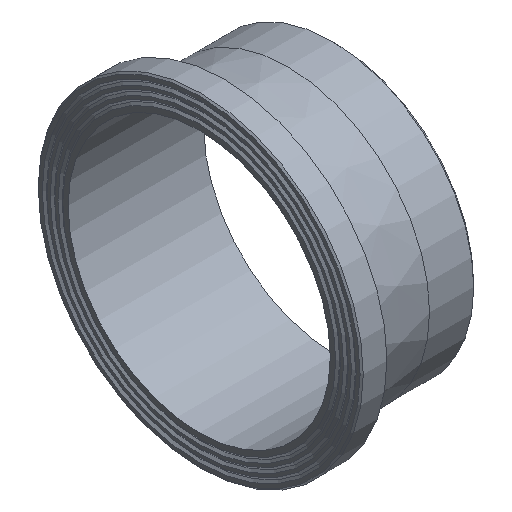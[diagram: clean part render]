
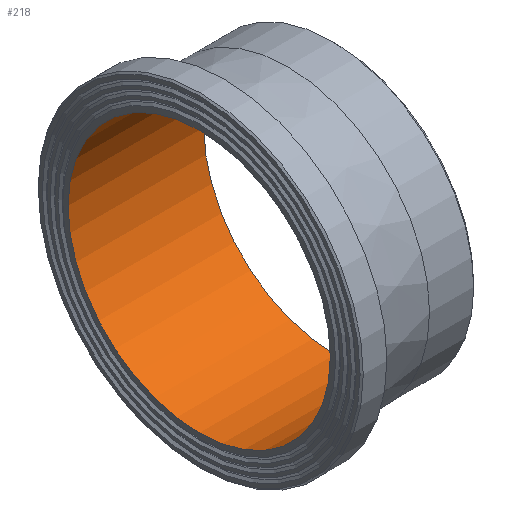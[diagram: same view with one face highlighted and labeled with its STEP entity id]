
A CAD part, isometric view. The second image highlights one B-rep face of the part: STEP entity #218.
In plain terms, the highlighted cylindrical face has radius 83.1 mm (diameter 166.2 mm), a full revolution.
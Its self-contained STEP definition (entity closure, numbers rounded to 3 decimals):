
#32=CYLINDRICAL_SURFACE('',#262,83.1);
#49=ORIENTED_EDGE('',*,*,#76,.F.);
#50=ORIENTED_EDGE('',*,*,#73,.T.);
#73=EDGE_CURVE('',#92,#92,#111,.T.);
#76=EDGE_CURVE('',#95,#95,#114,.T.);
#92=VERTEX_POINT('',#366);
#95=VERTEX_POINT('',#373);
#111=CIRCLE('',#246,83.1);
#114=CIRCLE('',#250,83.1);
#144=EDGE_LOOP('',(#49));
#145=EDGE_LOOP('',(#50));
#182=FACE_BOUND('',#144,.T.);
#183=FACE_BOUND('',#145,.T.);
#218=ADVANCED_FACE('',(#182,#183),#32,.F.);
#246=AXIS2_PLACEMENT_3D('',#365,#290,#291);
#250=AXIS2_PLACEMENT_3D('',#372,#298,#299);
#262=AXIS2_PLACEMENT_3D('',#391,#322,#323);
#290=DIRECTION('',(-1.,0.,0.));
#291=DIRECTION('',(0.,0.,1.));
#298=DIRECTION('',(-1.,0.,0.));
#299=DIRECTION('',(0.,0.,1.));
#322=DIRECTION('',(-1.,0.,0.));
#323=DIRECTION('',(0.,0.,1.));
#365=CARTESIAN_POINT('',(0.,0.,0.));
#366=CARTESIAN_POINT('',(0.,0.,83.1));
#372=CARTESIAN_POINT('',(86.,0.,0.));
#373=CARTESIAN_POINT('',(86.,0.,83.1));
#391=CARTESIAN_POINT('',(60.,0.,0.));
